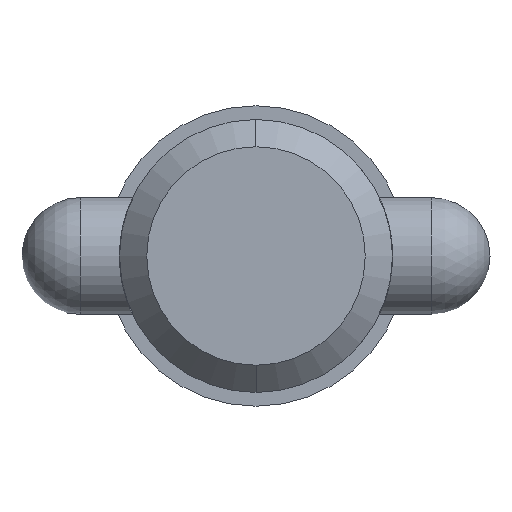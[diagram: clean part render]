
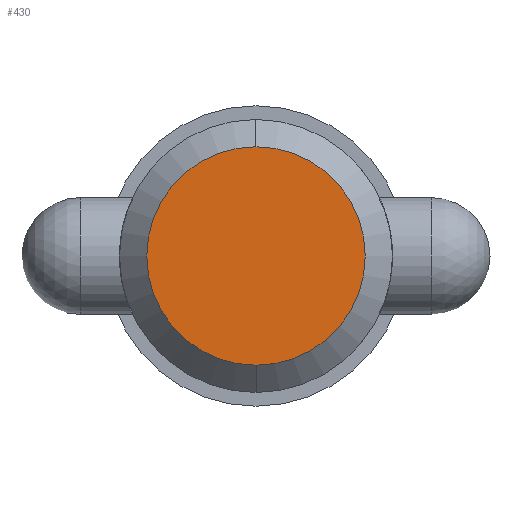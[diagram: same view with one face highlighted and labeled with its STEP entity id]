
A CAD part, left-side view. The second image highlights one B-rep face of the part: STEP entity #430.
In plain terms, the highlighted planar face has unit normal (-1, 0, 0).
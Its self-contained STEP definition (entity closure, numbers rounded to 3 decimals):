
#29 = PLANE ( 'NONE',  #481 ) ;
#53 = CARTESIAN_POINT ( 'NONE',  ( 0., 0., 0. ) ) ;
#106 = ORIENTED_EDGE ( 'NONE', *, *, #710, .F. ) ;
#316 = DIRECTION ( 'NONE',  ( 0., 0., -1. ) ) ;
#357 = DIRECTION ( 'NONE',  ( -1., 0., 0. ) ) ;
#369 = FACE_OUTER_BOUND ( 'NONE', #447, .T. ) ;
#392 = DIRECTION ( 'NONE',  ( 0., 0., -1. ) ) ;
#416 = AXIS2_PLACEMENT_3D ( 'NONE', #53, #784, #392 ) ;
#430 = ADVANCED_FACE ( 'NONE', ( #369 ), #29, .T. ) ;
#432 = CIRCLE ( 'NONE', #416, 8.892 ) ;
#446 = CIRCLE ( 'NONE', #681, 8.892 ) ;
#447 = EDGE_LOOP ( 'NONE', ( #106, #827 ) ) ;
#473 = DIRECTION ( 'NONE',  ( 1., 0., 0. ) ) ;
#481 = AXIS2_PLACEMENT_3D ( 'NONE', #947, #357, #862 ) ;
#499 = VERTEX_POINT ( 'NONE', #597 ) ;
#593 = EDGE_CURVE ( 'NONE', #499, #641, #432, .T. ) ;
#597 = CARTESIAN_POINT ( 'NONE',  ( 0., 0., 8.892 ) ) ;
#641 = VERTEX_POINT ( 'NONE', #962 ) ;
#681 = AXIS2_PLACEMENT_3D ( 'NONE', #888, #473, #316 ) ;
#710 = EDGE_CURVE ( 'NONE', #641, #499, #446, .T. ) ;
#784 = DIRECTION ( 'NONE',  ( 1., 0., 0. ) ) ;
#827 = ORIENTED_EDGE ( 'NONE', *, *, #593, .F. ) ;
#862 = DIRECTION ( 'NONE',  ( 0., 0., 1. ) ) ;
#888 = CARTESIAN_POINT ( 'NONE',  ( 0., 0., 0. ) ) ;
#947 = CARTESIAN_POINT ( 'NONE',  ( 0., 0., 0. ) ) ;
#962 = CARTESIAN_POINT ( 'NONE',  ( 0., 0., -8.892 ) ) ;
